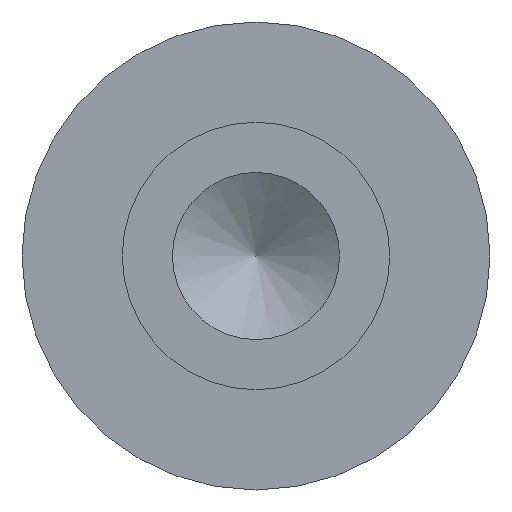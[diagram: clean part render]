
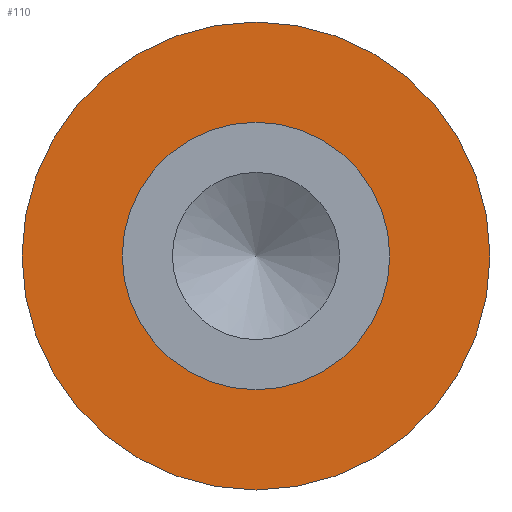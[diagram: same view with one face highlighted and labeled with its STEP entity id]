
A CAD part, left-side view. The second image highlights one B-rep face of the part: STEP entity #110.
In plain terms, the highlighted planar face has unit normal (-1, 0, 0).
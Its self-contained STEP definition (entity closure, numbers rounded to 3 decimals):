
#14=PLANE($,#130);
#21=FACE_BOUND($,#50,.T.);
#37=FACE_OUTER_BOUND($,#49,.T.);
#49=EDGE_LOOP($,(#94));
#50=EDGE_LOOP($,(#95));
#62=CIRCLE($,#128,0.508);
#64=CIRCLE($,#131,0.889);
#71=VERTEX_POINT($,#193);
#73=VERTEX_POINT($,#198);
#80=EDGE_CURVE($,#71,#71,#62,.T.);
#82=EDGE_CURVE($,#73,#73,#64,.T.);
#94=ORIENTED_EDGE($,*,*,#82,.F.);
#95=ORIENTED_EDGE($,*,*,#80,.T.);
#110=ADVANCED_FACE($,(#37,#21),#14,.T.);
#128=AXIS2_PLACEMENT_3D($,#194,#160,#161);
#130=AXIS2_PLACEMENT_3D($,#197,#164,#165);
#131=AXIS2_PLACEMENT_3D($,#199,#166,#167);
#160=DIRECTION('center_axis',(1.,0.,0.));
#161=DIRECTION('ref_axis',(0.,1.,0.));
#164=DIRECTION('center_axis',(-1.,0.,0.));
#165=DIRECTION('ref_axis',(0.,0.,1.));
#166=DIRECTION('center_axis',(1.,0.,0.));
#167=DIRECTION('ref_axis',(0.,1.,0.));
#193=CARTESIAN_POINT('',(1.295,0.508,0.));
#194=CARTESIAN_POINT('Origin',(1.295,0.,0.));
#197=CARTESIAN_POINT('Origin',(1.295,0.699,0.));
#198=CARTESIAN_POINT('',(1.295,0.889,0.));
#199=CARTESIAN_POINT('Origin',(1.295,0.,0.));
